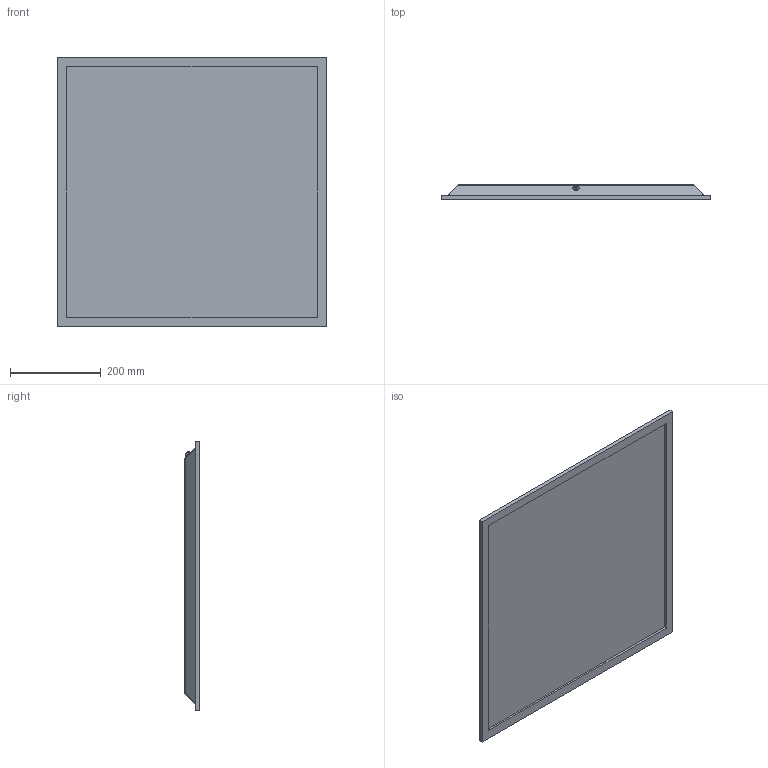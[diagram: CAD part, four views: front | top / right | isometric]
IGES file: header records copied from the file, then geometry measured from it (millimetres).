
Start section: SolidWorks IGES file using analytic representation for surfaces
Global section: file name: F:\GABRYSIA\MODELE 3D\CL-ITAKA-LED-8460-WWW\CL-ITAKA-LED-8460.IGS; native system: SolidWorks 2017; preprocessor: SolidWorks 2017; author: Togambi; date: 200907.133020; units: millimetre
Bounding box: 595 x 32.7 x 595 mm (x, y, z)
Surface area: 1545689.7 mm2 (no closed solid volume)
Topology: 0 solids, 0 shells, 51 faces, 456 edges, 456 vertices
Faces by surface type: bspline 39, revolution 12
